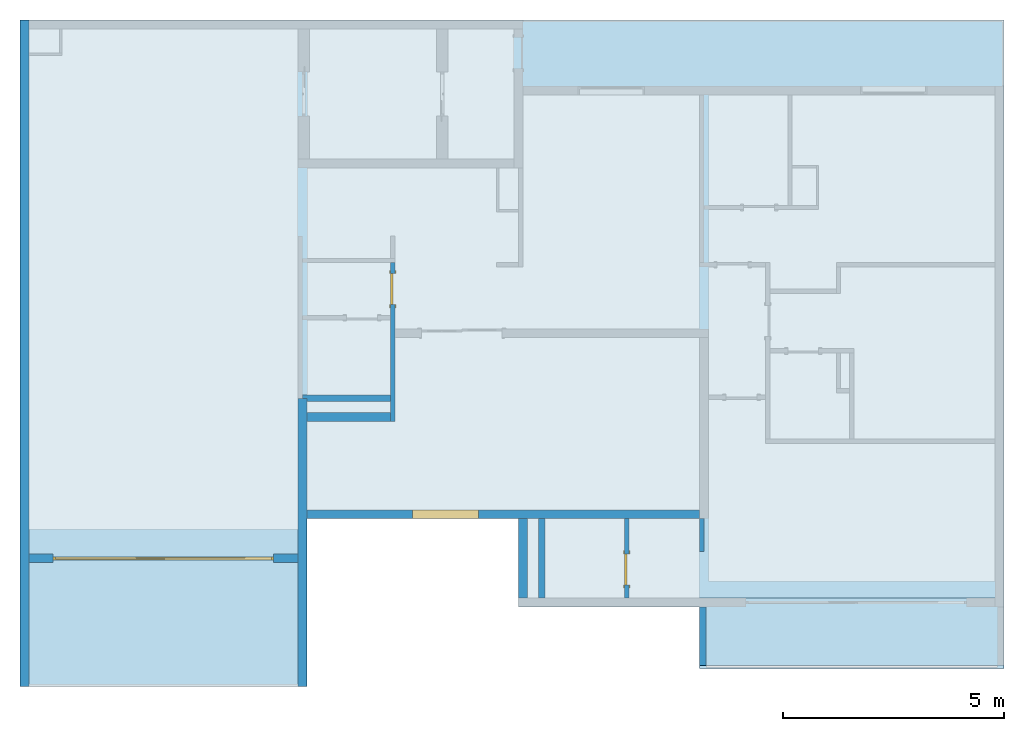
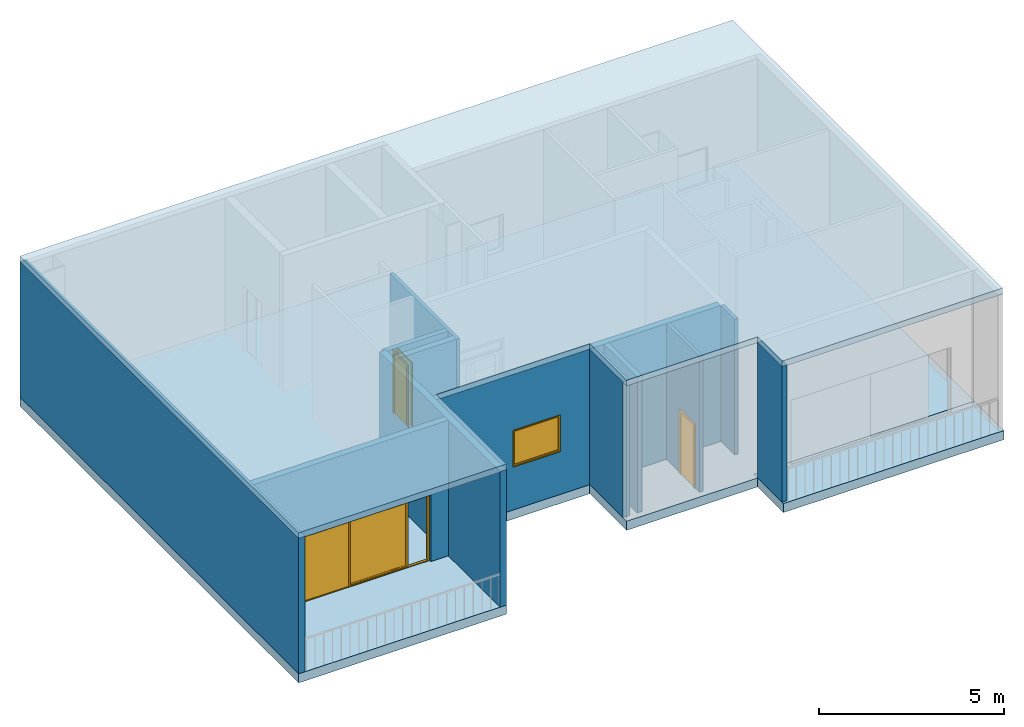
# One storey, part 1 of 7: 12 walls, 3 doors, 3 slabs, 1 window, 4 openings, 1 element without a shape of its own.
"""IFC2X3 building model written with IfcOpenShell, lengths in metres."""

from ifc_helpers import new_model, entity, si_unit, converted_unit, derived_unit, direction, frame, frame_2d, origin, origin_2d_with_axis, place, context, subcontext, project, spatial, polyline, rectangle, outline, extrude, faceted_brep, source, transform, mapped, material, material_list, layer, layer_set, layer_usage, type_object, type_shapes, element, fill, aggregate, save


model = new_model("IFC2X3")

# Units and contexts
model_context = context("Model", 3, precision=1e-05, world=origin(), true_north=direction((6.123031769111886e-17, 1.0)))
body_context = subcontext(model_context, "Body", "Model", "MODEL_VIEW")
ifc_project = project(units=[si_unit("LENGTHUNIT", "METRE"), si_unit("AREAUNIT", "SQUARE_METRE"), si_unit("VOLUMEUNIT", "CUBIC_METRE"), converted_unit("PLANEANGLEUNIT", "DEGREE", entity("IfcRatioMeasure", 0.017453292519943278), si_unit("PLANEANGLEUNIT", "RADIAN"), dimensions=[0, 0, 0, 0, 0, 0, 0]), si_unit("MASSUNIT", "GRAM", prefix="KILO"), derived_unit("MASSDENSITYUNIT", [(si_unit("MASSUNIT", "GRAM", prefix="KILO"), 1), (si_unit("LENGTHUNIT", "METRE"), -3)]), derived_unit("MOMENTOFINERTIAUNIT", [(si_unit("LENGTHUNIT", "METRE"), 4)]), si_unit("TIMEUNIT", "SECOND"), si_unit("FREQUENCYUNIT", "HERTZ"), si_unit("THERMODYNAMICTEMPERATUREUNIT", "DEGREE_CELSIUS"), derived_unit("THERMALTRANSMITTANCEUNIT", [(si_unit("MASSUNIT", "GRAM", prefix="KILO"), 1), (si_unit("THERMODYNAMICTEMPERATUREUNIT", "KELVIN"), -1), (si_unit("TIMEUNIT", "SECOND"), -3)]), derived_unit("VOLUMETRICFLOWRATEUNIT", [(si_unit("LENGTHUNIT", "METRE"), 3), (si_unit("TIMEUNIT", "SECOND"), -1)]), derived_unit("MASSFLOWRATEUNIT", [(si_unit("MASSUNIT", "GRAM", prefix="KILO"), 1), (si_unit("TIMEUNIT", "SECOND"), -1)]), derived_unit("ROTATIONALFREQUENCYUNIT", [(si_unit("TIMEUNIT", "SECOND"), -1)]), si_unit("ELECTRICCURRENTUNIT", "AMPERE"), si_unit("ELECTRICVOLTAGEUNIT", "VOLT"), si_unit("POWERUNIT", "WATT"), si_unit("FORCEUNIT", "NEWTON", prefix="KILO"), si_unit("ILLUMINANCEUNIT", "LUX"), si_unit("LUMINOUSFLUXUNIT", "LUMEN"), si_unit("LUMINOUSINTENSITYUNIT", "CANDELA"), derived_unit("USERDEFINED", [(si_unit("MASSUNIT", "GRAM", prefix="KILO"), -1), (si_unit("LENGTHUNIT", "METRE"), -2), (si_unit("TIMEUNIT", "SECOND"), 3), (si_unit("LUMINOUSFLUXUNIT", "LUMEN"), 1)]), derived_unit("SOUNDPOWERUNIT", [(si_unit("MASSUNIT", "GRAM", prefix="KILO"), 1), (si_unit("LENGTHUNIT", "METRE"), 2), (si_unit("TIMEUNIT", "SECOND"), -3)]), derived_unit("SOUNDPRESSUREUNIT", [(si_unit("MASSUNIT", "GRAM", prefix="KILO"), 1), (si_unit("LENGTHUNIT", "METRE"), -1), (si_unit("TIMEUNIT", "SECOND"), -2)]), derived_unit("LINEARVELOCITYUNIT", [(si_unit("LENGTHUNIT", "METRE"), 1), (si_unit("TIMEUNIT", "SECOND"), -1)]), si_unit("PRESSUREUNIT", "PASCAL"), derived_unit("USERDEFINED", [(si_unit("LENGTHUNIT", "METRE"), -2), (si_unit("MASSUNIT", "GRAM", prefix="KILO"), 1), (si_unit("TIMEUNIT", "SECOND"), -2)]), derived_unit("LINEARFORCEUNIT", [(si_unit("MASSUNIT", "GRAM", prefix="KILO"), 1), (si_unit("LENGTHUNIT", "METRE"), 1), (si_unit("TIMEUNIT", "SECOND"), -2), (si_unit("LENGTHUNIT", "METRE"), -1)]), derived_unit("PLANARFORCEUNIT", [(si_unit("MASSUNIT", "GRAM", prefix="KILO"), 1), (si_unit("LENGTHUNIT", "METRE"), 1), (si_unit("TIMEUNIT", "SECOND"), -2), (si_unit("LENGTHUNIT", "METRE"), -2)])], contexts=[model_context])

# Site, building, storey
site_placement = place(None, origin())
site = spatial("IfcSite", under=ifc_project, at=site_placement, Name="Default", CompositionType="ELEMENT")
building_placement = place(site_placement, origin())
building = spatial("IfcBuilding", under=site, at=building_placement, CompositionType="ELEMENT")
storey_placement = place(building_placement, frame((0.0, 0.0, 5.639999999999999)))
storey = spatial("IfcBuildingStorey", under=building, at=storey_placement, Name="F1", CompositionType="ELEMENT", Elevation=5.639999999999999)

# Slabs
ifc_material_1 = material(Name="Default Floor")
ifc_layer_1 = layer(ifc_material_1, 0.29999999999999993)
ifc_layer_set_1 = layer_set([ifc_layer_1], Name="Floor:Generic 300mm")
ifc_layer_usage_1 = layer_usage(ifc_layer_set_1, "AXIS3", "POSITIVE", 0.0)
slab_type_1 = type_object("IfcSlabType", Name="Floor:Generic 300mm", PredefinedType="FLOOR", material=ifc_layer_set_1)
slab_1_placement = place(storey_placement, origin())
element("IfcSlab", 1, at=slab_1_placement, inside=storey, type_object=slab_type_1, material=ifc_layer_usage_1, Name="Floor:Generic 300mm", ObjectType="Floor:Generic 300mm", PredefinedType="FLOOR", context=body_context, shape_type="SweptSolid", body=[
    extrude(outline(polyline([(-5.174999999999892, -10.025000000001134), (9.924999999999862, -10.025000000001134), (9.924999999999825, 12.275000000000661), (-3.375000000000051, 12.275000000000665), (-3.375000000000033, 1.2750000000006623), (-1.3749999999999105, 1.275000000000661), (-1.3749999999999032, -3.525000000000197), (-5.174999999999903, -3.525000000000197), (-5.174999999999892, -10.025000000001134)])), frame((16.63268321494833, -3.922392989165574, 0.0), z_axis=(0.0, 0.0, -1.0), x_axis=(0.0, 1.0, 0.0)), (0.0, 0.0, 1.0), 0.30000000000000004),
])
ifc_layer_usage_2 = layer_usage(ifc_layer_set_1, "AXIS3", "POSITIVE", 0.0)
slab_type_2 = type_object("IfcSlabType", Name="Floor:Generic 300mm", PredefinedType="FLOOR", material=ifc_layer_set_1)
slab_2_placement = place(storey_placement, origin())
element("IfcSlab", 2, at=slab_2_placement, inside=storey, type_object=slab_type_2, material=ifc_layer_usage_2, Name="Floor:Generic 300mm", ObjectType="Floor:Generic 300mm", PredefinedType="FLOOR", context=body_context, shape_type="SweptSolid", body=[
    extrude(rectangle(XDim=1.6000000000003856, YDim=6.899999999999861, at=origin_2d_with_axis()), frame((25.457683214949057, -7.8973929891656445, 0.0), z_axis=(0.0, 0.0, -1.0), x_axis=(0.0, 1.0, 0.0)), (0.0, 0.0, 1.0), 0.30000000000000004),
])

# Roof, slab
ifc_material_2 = material(Name="Default Roof")
roof_placement = place(storey_placement, origin())
roof = element("IfcRoof", 3, at=roof_placement, inside=storey, material=ifc_material_2, Name="Roofs 1:Roofs 1", ObjectType="Roofs 1:Roofs 1", ShapeType="NOTDEFINED")
slab_type_3 = type_object("IfcSlabType", Name="Roofs 1:Roofs 1", PredefinedType="ROOF")
slab_3_placement = place(storey_placement, origin())
slab_3 = element("IfcSlab", 4, at=slab_3_placement, type_object=slab_type_3, Name="Roofs 1:Roofs 1:1", ObjectType="Roofs 1:Roofs 1", PredefinedType="ROOF", context=body_context, shape_type="SweptSolid", body=[
    extrude(outline(polyline([(-11.099999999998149, -4.2344200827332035), (-4.600000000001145, -4.2344200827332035), (-4.600000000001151, -0.4373196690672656), (0.1999999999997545, -0.4373196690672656), (0.19999999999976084, -2.434420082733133), (4.299999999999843, -2.434420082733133), (4.299999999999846, -3.759420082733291), (11.199999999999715, -3.7594200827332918), (11.199999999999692, 10.865579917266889), (-11.099999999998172, 10.865579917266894), (-11.099999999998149, -4.2344200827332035)])), frame((17.707683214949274, -4.8629729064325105, 4.465000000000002)), (0.0, 0.0, 1.0), 0.2),
])
aggregate(roof, [slab_3])

# Walls
ifc_material_3 = material(Name="Masonry - Concrete Block")
ifc_layer_2 = layer(ifc_material_3, 0.2)
ifc_layer_set_2 = layer_set([ifc_layer_2], Name="Basic Wall:CW 200")
ifc_layer_usage_3 = layer_usage(ifc_layer_set_2, "AXIS2", "NEGATIVE", 0.1)
wall_type_1 = type_object("IfcWallType", Name="Basic Wall:CW 200", PredefinedType="STANDARD", material=ifc_layer_set_2)
wall_1_placement = place(storey_placement, frame((6.707683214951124, -9.097392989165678, 0.0), z_axis=(0.0, 0.0, 1.0), x_axis=(0.0, 1.0, 0.0)))
element("IfcWallStandardCase", 5, at=wall_1_placement, inside=storey, type_object=wall_type_1, material=ifc_layer_usage_3, Name="Basic Wall:CW 200", ObjectType="Basic Wall:CW 200", context=body_context, shape_type="SweptSolid", body=[
    extrude(rectangle(XDim=15.100000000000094, YDim=0.2, at=frame_2d((7.550000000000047, 1.5959455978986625e-16), x_axis=(-1.0, 0.0))), origin(), (0.0, 0.0, 1.0), 4.490000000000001),
])
ifc_layer_usage_4 = layer_usage(ifc_layer_set_2, "AXIS2", "NEGATIVE", 0.1)
wall_2_placement = place(storey_placement, frame((13.007683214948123, -9.097392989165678, 0.0), z_axis=(0.0, 0.0, 1.0), x_axis=(0.0, 1.0, 0.0)))
element("IfcWallStandardCase", 6, at=wall_2_placement, inside=storey, type_object=wall_type_1, material=ifc_layer_usage_4, Name="Basic Wall:CW 200", ObjectType="Basic Wall:CW 200", context=body_context, shape_type="SweptSolid", body=[
    extrude(rectangle(XDim=6.52500000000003, YDim=0.19999999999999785, at=frame_2d((3.262500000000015, -3.469446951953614e-17), x_axis=(-1.0, 0.0))), origin(), (0.0, 0.0, 1.0), 4.490000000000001),
])

# Wall, opening, door
ifc_layer_usage_5 = layer_usage(ifc_layer_set_2, "AXIS2", "NEGATIVE", 0.1)
wall_3_placement = place(storey_placement, frame((12.907683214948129, -6.197392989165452, 0.0), z_axis=(0.0, 0.0, 1.0), x_axis=(-1.0, 0.0, 0.0)))
wall_3 = element("IfcWallStandardCase", 7, at=wall_3_placement, inside=storey, type_object=wall_type_1, material=ifc_layer_usage_5, Name="Basic Wall:CW 200", ObjectType="Basic Wall:CW 200", context=body_context, shape_type="SweptSolid", body=[
    extrude(rectangle(XDim=6.099999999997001, YDim=0.2, at=frame_2d((3.0499999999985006, 0.0), x_axis=(1.0, 0.0))), origin(), (0.0, 0.0, 1.0), 4.490000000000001),
])
opening_1_placement = place(wall_3_placement, frame((5.549999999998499, 0.09999999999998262, 0.0)))
opening_1 = element("IfcOpeningElement", 8, at=opening_1_placement, cuts=wall_3, Name="Parametric_Operable_Sliding_Door_6386.0004:5M:1", ObjectType="Opening", context=body_context, shape_type="SweptSolid", body=[
    extrude(rectangle(XDim=2.199999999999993, YDim=4.999999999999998, at=frame_2d((1.0999999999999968, 2.499999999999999), x_axis=(1.0, 0.0))), frame((0.0, 0.0, 0.0), z_axis=(0.0, -1.0, 0.0), x_axis=(0.0, 0.0, 1.0)), (0.0, 0.0, 1.0), 0.2),
])
ifc_material_4 = material(Name="Window Glass")
ifc_material_5 = material(Name="Window Frame")
ifc_material_list_1 = material_list([ifc_material_4, ifc_material_5])
ifc_material_list_2 = material_list([ifc_material_4, ifc_material_5, ifc_material_4, ifc_material_5])
door_style_1 = type_object("IfcDoorStyle", Name="Parametric_Operable_Sliding_Door_6386.0004:5M", ConstructionType="NOTDEFINED", OperationType="NOTDEFINED", ParameterTakesPrecedence=False, Sizeable=False, material=ifc_material_list_2)
shared_shape_1 = source(origin(), body_context, "Body", "Brep", [
    faceted_brep([(0.7200000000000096, 0.0875000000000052, 2.080000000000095), (0.7200000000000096, 0.0875000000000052, 0.07000000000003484), (0.7200000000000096, 0.0775000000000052, 0.07000000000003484), (0.7200000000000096, 0.0775000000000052, 2.080000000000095), (3.0550000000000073, 0.0875000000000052, 2.080000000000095), (3.0550000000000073, 0.0875000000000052, 0.07000000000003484), (3.0550000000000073, 0.0775000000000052, 0.07000000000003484), (3.0550000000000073, 0.0775000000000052, 2.080000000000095)], [[[0, 1, 2, 3]], [[1, 0, 4, 5]], [[2, 1, 5, 6]], [[3, 2, 6, 7]], [[4, 7, 6, 5]], [[0, 3, 7, 4]]]),
    faceted_brep([(0.7200000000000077, 0.09499999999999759, 0.06999999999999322), (0.7200000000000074, 0.06999999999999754, 0.06999999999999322), (3.055000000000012, 0.06999999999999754, 0.06999999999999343), (3.055000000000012, 0.09499999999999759, 0.0699999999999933), (0.7200000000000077, 0.09499999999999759, 2.080000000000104), (0.7200000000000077, 0.06999999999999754, 2.080000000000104), (3.05500000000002, 0.09499999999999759, 2.080000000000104), (3.125000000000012, 0.09499999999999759, 2.150000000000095), (3.125000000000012, 0.09499999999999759, 0.02500000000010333), (0.6500000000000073, 0.09499999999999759, 0.0250000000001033), (0.6500000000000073, 0.09499999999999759, 2.1499999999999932), (3.055000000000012, 0.06999999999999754, 2.080000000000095), (0.6500000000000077, 0.06999999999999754, 2.1500000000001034), (0.6500000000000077, 0.06999999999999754, 0.02500000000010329), (3.125000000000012, 0.06999999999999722, 0.02500000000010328), (3.125000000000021, 0.06999999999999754, 2.1499999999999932), (0.04999999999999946, 0.06500000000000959, 0.02500000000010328), (4.949999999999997, 0.06499999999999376, 0.025000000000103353), (4.949999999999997, 0.13499999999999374, 0.025000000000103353), (0.05, 0.13500000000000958, 0.02500000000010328), (5.0, 0.0649999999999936, 0.0), (5.0, 0.0649999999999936, 2.199999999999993), (0.0, 0.06500000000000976, 2.199999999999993), (0.0, 0.06500000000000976, 0.0), (0.05, 0.06500000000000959, 2.1499999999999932), (4.949999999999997, 0.06499999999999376, 2.1499999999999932), (0.0, 0.13500000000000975, 0.0), (5.0, 0.1349999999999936, 0.0), (0.0, 0.13500000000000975, 2.199999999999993), (5.0, 0.1349999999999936, 2.199999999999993), (0.05, 0.13500000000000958, 2.1499999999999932), (4.949999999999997, 0.13499999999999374, 2.1499999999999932)], [[[0, 1, 2, 3]], [[1, 0, 4, 5]], [[4, 0, 3, 6], [7, 8, 9, 10]], [[1, 5, 11, 2], [12, 13, 14, 15]], [[13, 12, 10, 9]], [[13, 9, 8, 14], [16, 17, 18, 19]], [[11, 6, 3, 2]], [[15, 14, 8, 7]], [[20, 21, 22, 23], [24, 25, 17, 16]], [[20, 23, 26, 27]], [[23, 22, 28, 26]], [[27, 26, 28, 29], [30, 19, 18, 31]], [[21, 20, 27, 29]], [[17, 25, 31, 18]], [[24, 16, 19, 30]], [[5, 4, 6, 11]], [[22, 21, 29, 28]], [[10, 12, 15, 7], [25, 24, 30, 31]]], outer=[[True], [True], [False, True], [False, True], [True], [False, True], [True], [True], [True, False], [True], [True], [True, False], [True], [True], [True], [True], [True], [False, True]]),
    faceted_brep([(2.5249999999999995, 0.11499999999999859, 2.1499999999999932), (2.5249999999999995, 0.11499999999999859, 0.02500000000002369), (4.949999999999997, 0.11499999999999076, 0.02500000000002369), (4.949999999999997, 0.11499999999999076, 2.1499999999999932), (2.5249999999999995, 0.12099999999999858, 2.1499999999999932), (2.5249999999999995, 0.12099999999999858, 0.02500000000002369), (4.949999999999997, 0.12099999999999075, 0.02500000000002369), (4.949999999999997, 0.12099999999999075, 2.1499999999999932)], [[[0, 1, 2, 3]], [[1, 0, 4, 5]], [[2, 1, 5, 6]], [[3, 2, 6, 7]], [[4, 7, 6, 5]], [[0, 3, 7, 4]]]),
    faceted_brep([(2.474999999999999, 0.09999999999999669, 2.1499999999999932), (2.474999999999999, 0.09999999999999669, 0.025000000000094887), (2.5249999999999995, 0.09999999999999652, 0.02500000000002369), (2.5249999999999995, 0.09999999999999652, 2.1499999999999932), (2.474999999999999, 0.1300000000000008, 2.1499999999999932), (2.474999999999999, 0.1300000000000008, 0.025000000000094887), (2.5249999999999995, 0.13000000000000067, 0.02500000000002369), (2.5249999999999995, 0.13000000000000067, 2.1499999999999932)], [[[0, 1, 2, 3]], [[1, 0, 4, 5]], [[2, 1, 5, 6]], [[3, 2, 6, 7]], [[4, 7, 6, 5]], [[0, 3, 7, 4]]]),
])
type_shapes(door_style_1, [shared_shape_1])
door_1_placement = place(opening_1_placement, frame((-5.0, -0.1999999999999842, 0.0)))
door_1 = element("IfcDoor", 9, at=door_1_placement, inside=storey, type_object=door_style_1, material=ifc_material_list_1, Name="Parametric_Operable_Sliding_Door_6386.0004:5M", ObjectType="Parametric_Operable_Sliding_Door_6386.0004:5M", OverallHeight=2.1999999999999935, OverallWidth=4.999999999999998, context=body_context, shape_type="MappedRepresentation", body=[
    mapped(shared_shape_1, transform((0.0, 0.0, 0.0), scale=1.0)),
])
fill(opening_1, door_1)

# Wall
ifc_layer_usage_6 = layer_usage(ifc_layer_set_2, "AXIS2", "NEGATIVE", 0.1)
wall_4_placement = place(storey_placement, frame((13.107683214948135, -2.997392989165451, 0.0)))
element("IfcWallStandardCase", 10, at=wall_4_placement, inside=storey, type_object=wall_type_1, material=ifc_layer_usage_6, Name="Basic Wall:CW 200", ObjectType="Basic Wall:CW 200", context=body_context, shape_type="SweptSolid", body=[
    extrude(rectangle(XDim=1.900000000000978, YDim=0.2, at=frame_2d((0.950000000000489, 1.1102230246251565e-16), x_axis=(-1.0, 0.0))), origin(), (0.0, 0.0, 1.0), 4.490000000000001),
])

# Wall, opening, window
ifc_layer_usage_7 = layer_usage(ifc_layer_set_2, "AXIS2", "NEGATIVE", 0.1)
wall_5_placement = place(storey_placement, frame((22.00768321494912, -5.20029257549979, 0.0), z_axis=(0.0, 0.0, 1.0), x_axis=(-1.0, 0.0, 0.0)))
wall_5 = element("IfcWallStandardCase", 11, at=wall_5_placement, inside=storey, type_object=wall_type_1, material=ifc_layer_usage_7, Name="Basic Wall:CW 200", ObjectType="Basic Wall:CW 200", context=body_context, shape_type="SweptSolid", body=[
    extrude(rectangle(XDim=8.900000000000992, YDim=0.2, at=frame_2d((4.450000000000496, -4.163336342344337e-17), x_axis=(-1.0, 0.0))), origin(), (0.0, 0.0, 1.0), 4.490000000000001),
])
opening_2_placement = place(wall_5_placement, frame((5.007500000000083, -0.10000000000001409, 1.4150000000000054)))
opening_2 = element("IfcOpeningElement", 12, at=opening_2_placement, cuts=wall_5, Name="M_Fixed:0915 x 1220mm:1", ObjectType="Opening", context=body_context, shape_type="SweptSolid", body=[
    extrude(rectangle(XDim=1.2199999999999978, YDim=1.4999999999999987, at=frame_2d((0.6099999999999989, 0.7499999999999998), x_axis=(1.0, 0.0))), frame((0.0, 0.0, 0.0), z_axis=(0.0, 1.0, 0.0), x_axis=(0.0, 0.0, 1.0)), (0.0, 0.0, 1.0), 0.2),
])
ifc_material_6 = material(Name="Glass")
ifc_material_7 = material(Name="Sash")
ifc_material_list_3 = material_list([ifc_material_6, ifc_material_7, ifc_material_7, ifc_material_7])
ifc_material_list_4 = material_list([ifc_material_6, ifc_material_7, ifc_material_7, ifc_material_7])
window_style = type_object("IfcWindowStyle", Name="M_Fixed:0915 x 1220mm", ConstructionType="NOTDEFINED", OperationType="NOTDEFINED", ParameterTakesPrecedence=False, Sizeable=False, material=ifc_material_list_4)
shared_shape_2 = source(origin(), body_context, "Body", "SweptSolid", [
    extrude(rectangle(XDim=0.011999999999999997, YDim=1.3739999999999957, at=frame_2d((8.239936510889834e-18, 0.0), x_axis=(1.0, 0.0))), frame((0.7500000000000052, 0.15899999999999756, 0.06299999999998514), z_axis=(0.0, 0.0, 1.0), x_axis=(0.0, -1.0, 0.0)), (0.0, 0.0, 1.0), 1.0940000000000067),
    extrude(outline(polyline([(-0.7309999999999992, -0.5910000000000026), (0.7309999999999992, -0.5910000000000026), (0.7309999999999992, 0.5910000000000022), (-0.7309999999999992, 0.5910000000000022), (-0.7309999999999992, -0.5910000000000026)]), holes=[polyline([(-0.686999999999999, -0.5470000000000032), (-0.686999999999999, 0.5470000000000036), (0.6869999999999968, 0.5470000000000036), (0.6869999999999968, -0.5470000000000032), (-0.686999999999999, -0.5470000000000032)])]), frame((0.7500000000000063, 0.13699999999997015, 0.6099999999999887), z_axis=(0.0, 1.0, 0.0), x_axis=(1.0, 0.0, 0.0)), (0.0, 0.0, 1.0), 0.04400000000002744),
    extrude(outline(polyline([(-0.749999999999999, -0.609999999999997), (0.749999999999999, -0.609999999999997), (0.749999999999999, 0.609999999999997), (-0.749999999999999, 0.609999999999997), (-0.749999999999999, -0.609999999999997)]), holes=[polyline([(-0.7310000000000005, -0.5909999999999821), (-0.7310000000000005, 0.5910000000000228), (0.7309999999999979, 0.5910000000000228), (0.7309999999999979, -0.5909999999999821), (-0.7310000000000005, -0.5909999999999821)])]), frame((0.7500000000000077, 0.13699999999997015, 0.6100000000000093), z_axis=(0.0, 1.0, 0.0), x_axis=(1.0, 0.0, 0.0)), (0.0, 0.0, 1.0), 0.06300000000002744),
    extrude(outline(polyline([(-0.7499999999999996, -0.6099999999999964), (0.7499999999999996, -0.6099999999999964), (0.7499999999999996, 0.6099999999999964), (-0.7499999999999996, 0.6099999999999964), (-0.7499999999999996, -0.6099999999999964)]), holes=[polyline([(-0.7179999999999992, -0.5779999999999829), (-0.7179999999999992, 0.5780000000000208), (0.7179999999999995, 0.5780000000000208), (0.7179999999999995, -0.5779999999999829), (-0.7179999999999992, -0.5779999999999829)])]), frame((0.750000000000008, 0.0, 0.6100000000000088), z_axis=(0.0, 1.0, 0.0), x_axis=(1.0, 0.0, 0.0)), (0.0, 0.0, 1.0), 0.1369999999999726),
])
type_shapes(window_style, [shared_shape_2])
window_placement = place(opening_2_placement, origin())
window = element("IfcWindow", 13, at=window_placement, inside=storey, type_object=window_style, material=ifc_material_list_3, Name="M_Fixed:0915 x 1220mm", ObjectType="M_Fixed:0915 x 1220mm", OverallHeight=1.2199999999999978, OverallWidth=1.4999999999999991, context=body_context, shape_type="MappedRepresentation", body=[
    mapped(shared_shape_2, transform((0.0, 0.0, 0.0), scale=1.0)),
])
fill(opening_2, window)

# Wall
ifc_layer_usage_8 = layer_usage(ifc_layer_set_2, "AXIS2", "NEGATIVE", 0.1)
wall_6_placement = place(storey_placement, frame((18.007683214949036, -7.097392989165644, 0.0), z_axis=(0.0, 0.0, 1.0), x_axis=(0.0, 1.0, 0.0)))
element("IfcWallStandardCase", 14, at=wall_6_placement, inside=storey, type_object=wall_type_1, material=ifc_layer_usage_8, Name="Basic Wall:CW 200", ObjectType="Basic Wall:CW 200", context=body_context, shape_type="SweptSolid", body=[
    extrude(rectangle(XDim=1.7971004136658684, YDim=0.19999999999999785, at=frame_2d((0.8985502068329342, -5.551115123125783e-17), x_axis=(-1.0, 0.0))), origin(), (0.0, 0.0, 1.0), 4.490000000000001),
])

# Wall, opening, door
ifc_layer_3 = layer(ifc_material_3, 0.1)
ifc_layer_set_3 = layer_set([ifc_layer_3], Name="Basic Wall:CW 100")
ifc_layer_usage_9 = layer_usage(ifc_layer_set_3, "AXIS2", "NEGATIVE", 0.05)
wall_type_2 = type_object("IfcWallType", Name="Basic Wall:CW 100", PredefinedType="STANDARD", material=ifc_layer_set_3)
wall_7_placement = place(storey_placement, frame((15.057683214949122, 0.5026070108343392, 0.0), z_axis=(0.0, 0.0, 1.0), x_axis=(0.0, -1.0, 0.0)))
wall_7 = element("IfcWallStandardCase", 15, at=wall_7_placement, inside=storey, type_object=wall_type_2, material=ifc_layer_usage_9, Name="Basic Wall:CW 100", ObjectType="Basic Wall:CW 100", context=body_context, shape_type="SweptSolid", body=[
    extrude(rectangle(XDim=3.5999999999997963, YDim=0.10000000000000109, at=frame_2d((1.7999999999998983, -8.916478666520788e-16), x_axis=(1.0, 0.0))), origin(), (0.0, 0.0, 1.0), 4.490000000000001),
])
opening_3_placement = place(wall_7_placement, frame((0.9500000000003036, 0.04999999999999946, 0.0)))
opening_3 = element("IfcOpeningElement", 16, at=opening_3_placement, cuts=wall_7, Name="M_Single-Flush:0762 x 2032mm:1", ObjectType="Opening", context=body_context, shape_type="SweptSolid", body=[
    extrude(rectangle(XDim=0.7, YDim=2.0319999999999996, at=frame_2d((1.0159999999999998, 0.34999999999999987), x_axis=(0.0, 1.0))), frame((0.0, 0.0, 0.0), z_axis=(0.0, -1.0, 0.0), x_axis=(0.0, 0.0, 1.0)), (0.0, 0.0, 1.0), 0.1),
])
ifc_material_8 = material(Name="Door - Frame")
ifc_material_9 = material(Name="Door - Panel")
ifc_material_list_5 = material_list([ifc_material_8, ifc_material_9])
ifc_material_list_6 = material_list([ifc_material_8, ifc_material_8, ifc_material_9])
door_style_2 = type_object("IfcDoorStyle", Name="M_Single-Flush:0762 x 2032mm", ConstructionType="NOTDEFINED", OperationType="NOTDEFINED", ParameterTakesPrecedence=False, Sizeable=False, material=ifc_material_list_6)
shared_shape_3 = source(origin(), body_context, "Body", "SweptSolid", [
    extrude(outline(polyline([(-0.426, -1.0729999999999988), (0.4259999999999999, -1.0729999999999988), (0.4259999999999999, 1.0350000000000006), (0.3499999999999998, 1.0350000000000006), (0.3499999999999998, -0.9970000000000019), (-0.3499999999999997, -0.9970000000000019), (-0.3499999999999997, 1.0350000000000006), (-0.426, 1.0350000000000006), (-0.426, -1.0729999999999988)])), frame((0.3500000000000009, 0.10000000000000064, 1.0350000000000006), z_axis=(0.0, 1.0, 0.0), x_axis=(1.0, 0.0, 0.0)), (0.0, 0.0, 1.0), 0.024999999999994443),
    extrude(outline(polyline([(-1.0729999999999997, -0.42599999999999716), (1.0349999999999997, -0.42599999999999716), (1.0349999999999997, -0.3500000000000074), (-0.9969999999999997, -0.3500000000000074), (-0.9969999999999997, 0.35000000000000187), (1.0349999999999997, 0.35000000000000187), (1.0349999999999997, 0.4260000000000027), (-1.0729999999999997, 0.4260000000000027), (-1.0729999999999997, -0.42599999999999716)])), frame((0.35000000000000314, -0.025000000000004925, 1.0349999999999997), z_axis=(0.0, 1.0, 0.0), x_axis=(0.0, 0.0, -1.0)), (0.0, 0.0, 1.0), 0.025000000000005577),
    extrude(rectangle(XDim=0.051000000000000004, YDim=0.6999999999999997, at=origin_2d_with_axis()), frame((0.3500000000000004, 0.07450000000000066, 0.0), z_axis=(0.0, 0.0, 1.0), x_axis=(0.0, 1.0, 0.0)), (0.0, 0.0, 1.0), 2.0319999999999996),
])
type_shapes(door_style_2, [shared_shape_3])
door_2_placement = place(opening_3_placement, frame((0.0, 0.0, 0.0), z_axis=(0.0, 0.0, 1.0), x_axis=(-1.0, 0.0, 0.0)))
door_2 = element("IfcDoor", 17, at=door_2_placement, inside=storey, type_object=door_style_2, material=ifc_material_list_5, Name="M_Single-Flush:0762 x 2032mm", ObjectType="M_Single-Flush:0762 x 2032mm", OverallHeight=2.0319999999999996, OverallWidth=0.7, context=body_context, shape_type="MappedRepresentation", body=[
    mapped(shared_shape_3, transform((0.0, 0.0, 0.0), scale=1.0)),
])
fill(opening_3, door_2)

ifc_layer_usage_10 = layer_usage(ifc_layer_set_3, "AXIS2", "NEGATIVE", 0.05)
wall_8_placement = place(storey_placement, frame((20.357683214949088, -5.3002925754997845, 0.0), z_axis=(0.0, 0.0, 1.0), x_axis=(0.0, -1.0, 0.0)))
wall_8 = element("IfcWallStandardCase", 18, at=wall_8_placement, inside=storey, type_object=wall_type_2, material=ifc_layer_usage_10, Name="Basic Wall:CW 100", ObjectType="Basic Wall:CW 100", context=body_context, shape_type="SweptSolid", body=[
    extrude(rectangle(XDim=1.7971004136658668, YDim=0.09999999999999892, at=frame_2d((0.8985502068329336, 2.1649348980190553e-15), x_axis=(1.0, 0.0))), origin(), (0.0, 0.0, 1.0), 4.490000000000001),
])
opening_4_placement = place(wall_8_placement, frame((1.497100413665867, 0.04999999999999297, 0.0)))
opening_4 = element("IfcOpeningElement", 19, at=opening_4_placement, cuts=wall_8, Name="M_Single-Flush:0762 x 2032mm:1", ObjectType="Opening", context=body_context, shape_type="SweptSolid", body=[
    extrude(rectangle(XDim=0.6999999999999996, YDim=2.0319999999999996, at=frame_2d((1.0159999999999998, 0.3500000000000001), x_axis=(0.0, 1.0))), frame((0.0, 0.0, 0.0), z_axis=(0.0, -1.0, 0.0), x_axis=(0.0, 0.0, 1.0)), (0.0, 0.0, 1.0), 0.1),
])
ifc_material_list_7 = material_list([ifc_material_8, ifc_material_9])
door_3_placement = place(opening_4_placement, frame((0.0, 0.0, 0.0), z_axis=(0.0, 0.0, 1.0), x_axis=(-1.0, 0.0, 0.0)))
door_3 = element("IfcDoor", 20, at=door_3_placement, inside=storey, type_object=door_style_2, material=ifc_material_list_7, Name="M_Single-Flush:0762 x 2032mm", ObjectType="M_Single-Flush:0762 x 2032mm", OverallHeight=2.0319999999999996, OverallWidth=0.7000000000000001, context=body_context, shape_type="MappedRepresentation", body=[
    mapped(shared_shape_3, transform((0.0, 0.0, 0.0), scale=1.0)),
])
fill(opening_4, door_3)

# Walls
ifc_layer_usage_11 = layer_usage(ifc_layer_set_3, "AXIS2", "NEGATIVE", 0.05)
wall_9_placement = place(storey_placement, frame((22.05768321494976, -5.30029257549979, 0.0), z_axis=(0.0, 0.0, 1.0), x_axis=(0.0, -1.0, 0.0)))
element("IfcWallStandardCase", 21, at=wall_9_placement, inside=storey, type_object=wall_type_2, material=ifc_layer_usage_11, Name="Basic Wall:CW 100", ObjectType="Basic Wall:CW 100", context=body_context, shape_type="SweptSolid", body=[
    extrude(rectangle(XDim=0.7471004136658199, YDim=0.10000000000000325, at=frame_2d((0.37355020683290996, 0.0), x_axis=(-1.0, 0.0))), origin(), (0.0, 0.0, 1.0), 4.490000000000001),
])
ifc_layer_4 = layer(ifc_material_3, 0.14999999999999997)
ifc_layer_set_4 = layer_set([ifc_layer_4], Name="Basic Wall:CW 150")
ifc_layer_usage_12 = layer_usage(ifc_layer_set_4, "AXIS2", "NEGATIVE", 0.07499999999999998)
wall_type_3 = type_object("IfcWallType", Name="Basic Wall:CW 150", PredefinedType="STANDARD", material=ifc_layer_set_4)
wall_10_placement = place(storey_placement, frame((15.007683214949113, -2.5723929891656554, 0.0), z_axis=(0.0, 0.0, 1.0), x_axis=(-1.0, 0.0, 0.0)))
element("IfcWallStandardCase", 22, at=wall_10_placement, inside=storey, type_object=wall_type_3, material=ifc_layer_usage_12, Name="Basic Wall:CW 150", ObjectType="Basic Wall:CW 150", context=body_context, shape_type="SweptSolid", body=[
    extrude(outline(polyline([(-0.07500000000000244, -0.7000000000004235), (0.0, -0.7000000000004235), (0.0, -0.6000000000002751), (0.07499999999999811, -0.6000000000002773), (0.07500000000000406, 1.300000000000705), (-0.07499999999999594, 1.300000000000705), (-0.07500000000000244, -0.7000000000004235)])), frame((1.3000000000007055, 0.0, 0.0), z_axis=(0.0, 0.0, 1.0), x_axis=(0.0, 1.0, 0.0)), (0.0, 0.0, 1.0), 4.49),
])
ifc_layer_usage_13 = layer_usage(ifc_layer_set_4, "AXIS2", "NEGATIVE", 0.07499999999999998)
wall_11_placement = place(storey_placement, frame((18.432683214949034, -5.300292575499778, 0.0), z_axis=(0.0, 0.0, 1.0), x_axis=(0.0, -1.0, 0.0)))
element("IfcWallStandardCase", 23, at=wall_11_placement, inside=storey, type_object=wall_type_3, material=ifc_layer_usage_13, Name="Basic Wall:CW 150", ObjectType="Basic Wall:CW 150", context=body_context, shape_type="SweptSolid", body=[
    extrude(rectangle(XDim=1.797100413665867, YDim=0.15000000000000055, at=frame_2d((0.8985502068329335, -5.551115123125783e-17), x_axis=(-1.0, 0.0))), origin(), (0.0, 0.0, 1.0), 4.490000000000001),
])
ifc_layer_usage_14 = layer_usage(ifc_layer_set_4, "AXIS2", "NEGATIVE", 0.07499999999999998)
wall_12_placement = place(storey_placement, frame((22.082683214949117, -7.297392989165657, 0.0), z_axis=(0.0, 0.0, 1.0), x_axis=(0.0, -1.0, 0.0)))
element("IfcWallStandardCase", 24, at=wall_12_placement, inside=storey, type_object=wall_type_3, material=ifc_layer_usage_14, Name="Basic Wall:CW 150", ObjectType="Basic Wall:CW 150", context=body_context, shape_type="SweptSolid", body=[
    extrude(rectangle(XDim=1.3250000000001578, YDim=0.15000000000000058, at=frame_2d((0.6625000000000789, -1.1102230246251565e-16), x_axis=(-1.0, 0.0))), origin(), (0.0, 0.0, 1.0), 4.490000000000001),
])

save(model, "model.ifc")
